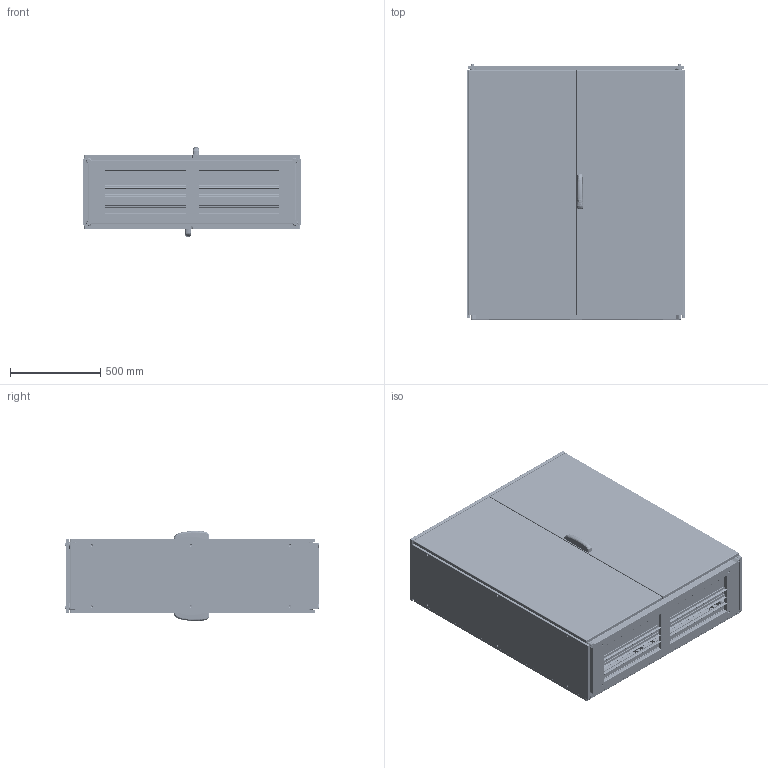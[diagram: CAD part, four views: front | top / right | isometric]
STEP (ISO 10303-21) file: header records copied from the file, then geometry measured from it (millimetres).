
FILE_DESCRIPTION (( 'STEP AP203' ), '1' );
FILE_NAME ('ENUX121404DP.STEP', '2025-06-03T06:19:30', ( '' ), ( '' ), 'SwSTEP 2.0', 'SolidWorks 2022', '' );
FILE_SCHEMA (( 'CONFIG_CONTROL_DESIGN' ));
Length unit declared in the file: millimetre
Products named in the file (15): AR_ENUX_Struttura_1200x1400x0400; AR_ENUX_montaggio_porta_IB_2.0_1200x1400_ANT_DX; AR_ENUX_montaggio_porta_IB_2.0_1200x1400_POST_DX; AR_ENUX_Tegolino_1200x0050; AR_ENUX_Fianco_0400x1400_DX; AR_ENUX_Porta_IB_2.0_1200x1400_ANT; AR_ENUX_Porta_CB_2.0_1200x1400_ANT_DX; AR_ENUX_Fianco_0400x1400_SX; ENUX121404DP; AR_ENUX_Vite_tetto; AR_ENUX_Porta_CB_2.0_1200x1400_POST_DX; AR_ENUX_Tetto_1200x0400; AR_ENUX_Porta_IB_2.0_1200x1400_POST; AR_ENUX_Tegolino_1200x0100; AR_ENUX_nuova_maniglia_mesan
Assembly tree (22 placements, depth 3):
  ENUX121404DP
    AR_ENUX_Struttura_1200x1400x0400
    AR_ENUX_Fianco_0400x1400_SX
    AR_ENUX_Fianco_0400x1400_DX
    AR_ENUX_Tetto_1200x0400
    AR_ENUX_Vite_tetto  x4
    AR_ENUX_Tegolino_1200x0050  x4
    AR_ENUX_Tegolino_1200x0100  x2
    AR_ENUX_montaggio_porta_IB_2.0_1200x1400_ANT_DX
      AR_ENUX_Porta_IB_2.0_1200x1400_ANT
      AR_ENUX_nuova_maniglia_mesan
    AR_ENUX_Porta_CB_2.0_1200x1400_ANT_DX
    AR_ENUX_montaggio_porta_IB_2.0_1200x1400_POST_DX
      AR_ENUX_Porta_IB_2.0_1200x1400_POST
      AR_ENUX_nuova_maniglia_mesan
    AR_ENUX_Porta_CB_2.0_1200x1400_POST_DX
Bounding box: 1212 x 1415.1 x 500 mm (x, y, z)
Volume: 15437557.3 mm3; surface area: 18097250.8 mm2
Topology: 20 solids, 21 shells, 9768 faces, 27551 edges, 17766 vertices
Faces by surface type: plane 5009, cylinder 3896, bspline 398, torus 247, cone 140, sphere 78
Entity records: 352460 total; most frequent: CARTESIAN_POINT 95179, ORIENTED_EDGE 53168, DIRECTION 51471, EDGE_CURVE 26584, LINE 17609, VECTOR 17609, VERTEX_POINT 17314, AXIS2_PLACEMENT_3D 16931
